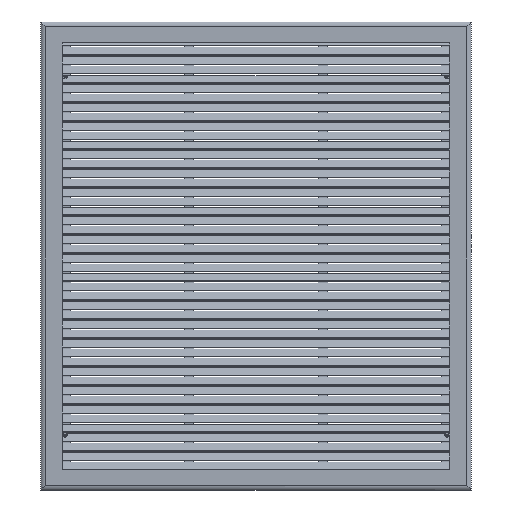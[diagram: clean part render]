
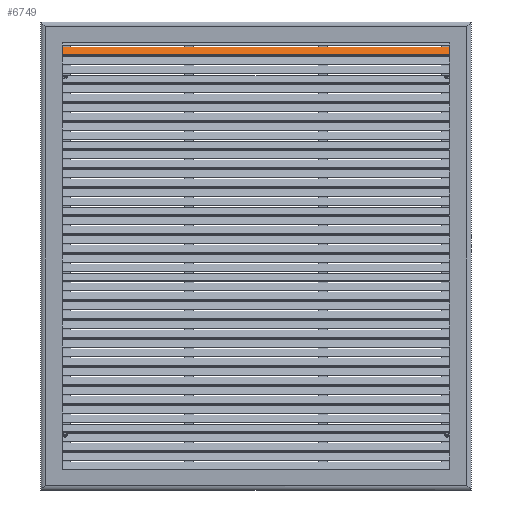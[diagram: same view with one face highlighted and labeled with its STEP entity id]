
A CAD part, top view. The second image highlights one B-rep face of the part: STEP entity #6749.
In plain terms, the highlighted planar face has unit normal (0, 0.743, 0.669).
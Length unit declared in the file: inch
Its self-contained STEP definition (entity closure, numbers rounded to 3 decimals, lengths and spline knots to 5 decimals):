
#318 = ORIENTED_EDGE ( 'NONE', *, *, #509, .T. ) ;
#509 = EDGE_CURVE ( 'NONE', #1899, #11160, #7579, .T. ) ;
#818 = ORIENTED_EDGE ( 'NONE', *, *, #22562, .T. ) ;
#1037 = EDGE_CURVE ( 'NONE', #7455, #19468, #27888, .T. ) ;
#1205 = DIRECTION ( 'NONE',  ( -1., 0., 0. ) ) ;
#1331 = CARTESIAN_POINT ( 'NONE',  ( 21.95233, 22.13785, -0.875 ) ) ;
#1897 = ORIENTED_EDGE ( 'NONE', *, *, #7171, .T. ) ;
#1899 = VERTEX_POINT ( 'NONE', #3493 ) ;
#3387 = ORIENTED_EDGE ( 'NONE', *, *, #21937, .T. ) ;
#3493 = CARTESIAN_POINT ( 'NONE',  ( -20.55625, 21.5751, -0.25 ) ) ;
#4174 = DIRECTION ( 'NONE',  ( 1., 0., 0. ) ) ;
#4293 = CARTESIAN_POINT ( 'NONE',  ( 21.95233, 21.5751, -0.25 ) ) ;
#4656 = DIRECTION ( 'NONE',  ( -1., 0., 0. ) ) ;
#4751 = CARTESIAN_POINT ( 'NONE',  ( 21.95233, 21.35, 0. ) ) ;
#4859 = CARTESIAN_POINT ( 'NONE',  ( 20.494, 22.13785, -0.875 ) ) ;
#4957 = LINE ( 'NONE', #4293, #21686 ) ;
#5446 = VERTEX_POINT ( 'NONE', #11038 ) ;
#5849 = ORIENTED_EDGE ( 'NONE', *, *, #1037, .F. ) ;
#6032 = VECTOR ( 'NONE', #19864, 39.37008 ) ;
#6541 = FACE_OUTER_BOUND ( 'NONE', #26940, .T. ) ;
#6749 = ADVANCED_FACE ( 'NONE', ( #6541 ), #13383, .T. ) ;
#7171 = EDGE_CURVE ( 'NONE', #7455, #5446, #25042, .T. ) ;
#7455 = VERTEX_POINT ( 'NONE', #4859 ) ;
#7579 = LINE ( 'NONE', #26359, #25578 ) ;
#7865 = ORIENTED_EDGE ( 'NONE', *, *, #22544, .F. ) ;
#10494 = VERTEX_POINT ( 'NONE', #27396 ) ;
#10688 = VECTOR ( 'NONE', #4656, 39.37008 ) ;
#11038 = CARTESIAN_POINT ( 'NONE',  ( -20.65, 22.13785, -0.875 ) ) ;
#11160 = VERTEX_POINT ( 'NONE', #19512 ) ;
#11737 = LINE ( 'NONE', #20257, #6032 ) ;
#13165 = DIRECTION ( 'NONE',  ( 0., -0.669, 0.743 ) ) ;
#13264 = DIRECTION ( 'NONE',  ( 0., 0.743, 0.669 ) ) ;
#13383 = PLANE ( 'NONE',  #18642 ) ;
#13445 = CARTESIAN_POINT ( 'NONE',  ( 21.95233, 21.35, 0. ) ) ;
#16732 = VECTOR ( 'NONE', #16859, 39.37008 ) ;
#16859 = DIRECTION ( 'NONE',  ( 0., -0.669, 0.743 ) ) ;
#17047 = CARTESIAN_POINT ( 'NONE',  ( 20.494, 22.13785, -0.875 ) ) ;
#18642 = AXIS2_PLACEMENT_3D ( 'NONE', #13445, #13264, #13165 ) ;
#19076 = CARTESIAN_POINT ( 'NONE',  ( 20.494, 21.35, 0. ) ) ;
#19468 = VERTEX_POINT ( 'NONE', #19076 ) ;
#19512 = CARTESIAN_POINT ( 'NONE',  ( -20.55625, 21.35, 0. ) ) ;
#19864 = DIRECTION ( 'NONE',  ( 0., -0.669, 0.743 ) ) ;
#20257 = CARTESIAN_POINT ( 'NONE',  ( -20.65, 21.35, 0. ) ) ;
#21686 = VECTOR ( 'NONE', #4174, 39.37008 ) ;
#21937 = EDGE_CURVE ( 'NONE', #5446, #10494, #11737, .T. ) ;
#22380 = LINE ( 'NONE', #4751, #10688 ) ;
#22544 = EDGE_CURVE ( 'NONE', #19468, #11160, #22380, .T. ) ;
#22562 = EDGE_CURVE ( 'NONE', #10494, #1899, #4957, .T. ) ;
#24423 = VECTOR ( 'NONE', #1205, 39.37008 ) ;
#25042 = LINE ( 'NONE', #1331, #24423 ) ;
#25578 = VECTOR ( 'NONE', #26582, 39.37008 ) ;
#26359 = CARTESIAN_POINT ( 'NONE',  ( -20.55625, 21.5751, -0.25 ) ) ;
#26582 = DIRECTION ( 'NONE',  ( 0., -0.669, 0.743 ) ) ;
#26940 = EDGE_LOOP ( 'NONE', ( #318, #7865, #5849, #1897, #3387, #818 ) ) ;
#27396 = CARTESIAN_POINT ( 'NONE',  ( -20.65, 21.5751, -0.25 ) ) ;
#27888 = LINE ( 'NONE', #17047, #16732 ) ;
